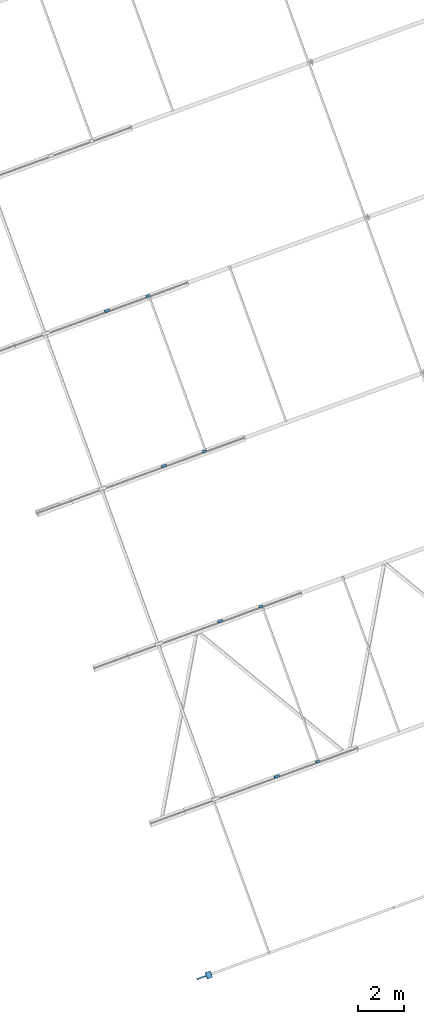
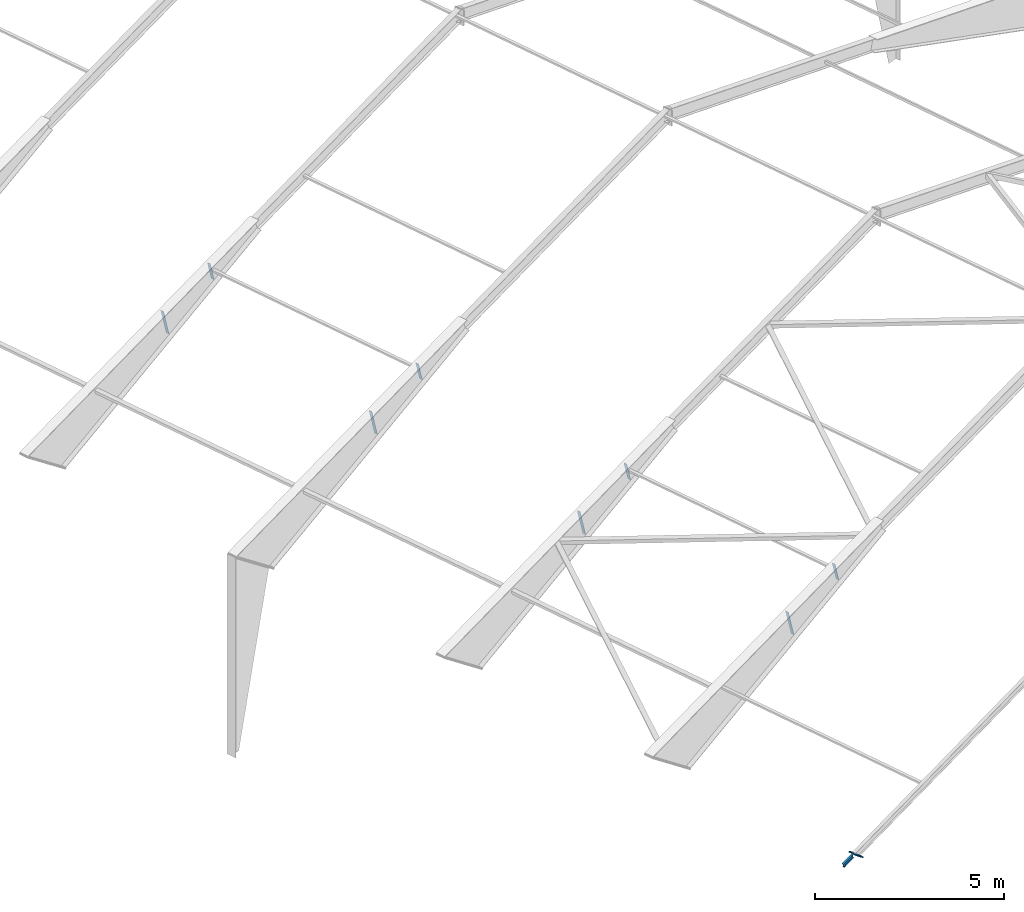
# One storey, part 5 of 17: 10 members, 1 beam, 1 opening, 11 elements without a shape of their own.
"""IFC4 building model written with IfcOpenShell, lengths in millimetres."""

from ifc_helpers import new_model, si_unit, direction, frame, origin_with_axes, place, context, subcontext, project, spatial, line, indexed_curve, outline, extrude, material, element, aggregate, save


model = new_model("IFC4")

# Units and contexts
model_context = context("Model", 3, precision=0.2, world=frame((203566.813, 116264.779, 0.0), z_axis=(0.0, 0.0, 1.0), x_axis=(1.0, 0.0, 0.0)), true_north=direction((-0.9396138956, -0.3422363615)))
body_context = subcontext(model_context, "Body", "Model", "MODEL_VIEW")
ifc_project = project(units=[si_unit("LENGTHUNIT", "METRE", prefix="MILLI"), si_unit("AREAUNIT", "SQUARE_METRE"), si_unit("VOLUMEUNIT", "CUBIC_METRE"), si_unit("MASSUNIT", "GRAM", prefix="KILO"), si_unit("TIMEUNIT", "SECOND"), si_unit("PLANEANGLEUNIT", "RADIAN"), si_unit("SOLIDANGLEUNIT", "STERADIAN"), si_unit("THERMODYNAMICTEMPERATUREUNIT", "DEGREE_CELSIUS"), si_unit("LUMINOUSINTENSITYUNIT", "LUMEN")], contexts=[model_context])

# Site, building, storey
site_placement = place(None, origin_with_axes())
site = spatial("IfcSite", under=ifc_project, at=site_placement, Name="Nobelprojektet", CompositionType="ELEMENT")
building_placement = place(site_placement, origin_with_axes())
building = spatial("IfcBuilding", under=site, at=building_placement, Name="Hall B", CompositionType="ELEMENT")
storey_placement = place(building_placement, frame((0.0, 0.0, 136000.0), z_axis=(0.0, 0.0, 1.0), x_axis=(1.0, 0.0, 0.0)))
storey = spatial("IfcBuildingStorey", under=building, at=storey_placement, Name="Plan_2", CompositionType="ELEMENT", Elevation=136000.0)

# Assembly, member
assembly_1_placement = place(storey_placement, frame((153655.23292, 121781.50658, 4361.10289), z_axis=(0.9075966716, 0.3305755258, 0.2588206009), x_axis=(-0.2431885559, -0.088576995, 0.9659262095)))
assembly_1 = element("IfcElementAssembly", 1, at=assembly_1_placement, inside=storey, Name="BEF. STOMME", PredefinedType="NOTDEFINED")
ifc_material = material(Name="S355J2", Category="STEEL")
member_1_placement = place(assembly_1_placement, origin_with_axes())
member_1 = element("IfcMember", 2, at=member_1_placement, material=ifc_material, Name="BEF. STOMME", PredefinedType="NOTDEFINED", context=body_context, shape_type="SolidModel", body=[
    extrude(outline(indexed_curve([(-7.5, -50.0), (7.5, -50.0), (7.5, 50.0), (-7.5, 50.0)], segments=[line(1, 2, 3, 4, 1)])), frame((0.0, 0.0, 0.0), z_axis=(-1.0, 0.0, 0.0), x_axis=(0.0, 0.0, 1.0)), (0.0, 0.0, -1.0), 883.23799),
])
aggregate(assembly_1, [member_1])

assembly_2_placement = place(storey_placement, frame((155396.23963, 122415.63651, 5134.76285), z_axis=(0.9075966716, 0.3305755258, 0.2588206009), x_axis=(-0.2431885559, -0.088576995, 0.9659262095)))
assembly_2 = element("IfcElementAssembly", 3, at=assembly_2_placement, inside=storey, Name="BEF. STOMME", PredefinedType="NOTDEFINED")
member_2_placement = place(assembly_2_placement, origin_with_axes())
member_2 = element("IfcMember", 4, at=member_2_placement, material=ifc_material, Name="BEF. STOMME", PredefinedType="NOTDEFINED", context=body_context, shape_type="SolidModel", body=[
    extrude(outline(indexed_curve([(-7.5, -50.0), (7.5, -50.0), (7.5, 50.0), (-7.5, 50.0)], segments=[line(1, 2, 3, 4, 1)])), frame((0.0, 0.0, 0.0), z_axis=(-1.0, 0.0, 0.0), x_axis=(0.0, 0.0, 1.0)), (0.0, 0.0, -1.0), 614.49783),
])
aggregate(assembly_2, [member_2])

assembly_3_placement = place(storey_placement, frame((151191.12555, 128546.72414, 4361.10289), z_axis=(0.9075966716, 0.3305755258, 0.2588206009), x_axis=(-0.2431885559, -0.088576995, 0.9659262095)))
assembly_3 = element("IfcElementAssembly", 5, at=assembly_3_placement, inside=storey, Name="BEF. STOMME", PredefinedType="NOTDEFINED")
member_3_placement = place(assembly_3_placement, origin_with_axes())
member_3 = element("IfcMember", 6, at=member_3_placement, material=ifc_material, Name="BEF. STOMME", PredefinedType="NOTDEFINED", context=body_context, shape_type="SolidModel", body=[
    extrude(outline(indexed_curve([(-7.5, -50.0), (7.5, -50.0), (7.5, 50.0), (-7.5, 50.0)], segments=[line(1, 2, 3, 4, 1)])), frame((0.0, 0.0, 0.0), z_axis=(-1.0, 0.0, 0.0), x_axis=(0.0, 0.0, 1.0)), (0.0, 0.0, -1.0), 883.23799),
])
aggregate(assembly_3, [member_3])

assembly_4_placement = place(storey_placement, frame((152932.13226, 129180.85407, 5134.76285), z_axis=(0.9075966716, 0.3305755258, 0.2588206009), x_axis=(-0.2431885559, -0.088576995, 0.9659262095)))
assembly_4 = element("IfcElementAssembly", 7, at=assembly_4_placement, inside=storey, Name="BEF. STOMME", PredefinedType="NOTDEFINED")
member_4_placement = place(assembly_4_placement, origin_with_axes())
member_4 = element("IfcMember", 8, at=member_4_placement, material=ifc_material, Name="BEF. STOMME", PredefinedType="NOTDEFINED", context=body_context, shape_type="SolidModel", body=[
    extrude(outline(indexed_curve([(-7.5, -50.0), (7.5, -50.0), (7.5, 50.0), (-7.5, 50.0)], segments=[line(1, 2, 3, 4, 1)])), frame((0.0, 0.0, 0.0), z_axis=(-1.0, 0.0, 0.0), x_axis=(0.0, 0.0, 1.0)), (0.0, 0.0, -1.0), 614.49783),
])
aggregate(assembly_4, [member_4])

assembly_5_placement = place(storey_placement, frame((146262.91066, 142077.16074, 4361.10289), z_axis=(0.9075966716, 0.3305755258, 0.2588206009), x_axis=(-0.2431885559, -0.088576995, 0.9659262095)))
assembly_5 = element("IfcElementAssembly", 9, at=assembly_5_placement, inside=storey, Name="BEF. STOMME", PredefinedType="NOTDEFINED")
member_5_placement = place(assembly_5_placement, origin_with_axes())
member_5 = element("IfcMember", 10, at=member_5_placement, material=ifc_material, Name="BEF. STOMME", PredefinedType="NOTDEFINED", context=body_context, shape_type="SolidModel", body=[
    extrude(outline(indexed_curve([(-7.5, -50.0), (7.5, -50.0), (7.5, 50.0), (-7.5, 50.0)], segments=[line(1, 2, 3, 4, 1)])), frame((0.0, 0.0, 0.0), z_axis=(-1.0, 0.0, 0.0), x_axis=(0.0, 0.0, 1.0)), (0.0, 0.0, -1.0), 883.23799),
])
aggregate(assembly_5, [member_5])

assembly_6_placement = place(storey_placement, frame((148003.91737, 142711.29066, 5134.76285), z_axis=(0.9075966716, 0.3305755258, 0.2588206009), x_axis=(-0.2431885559, -0.088576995, 0.9659262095)))
assembly_6 = element("IfcElementAssembly", 11, at=assembly_6_placement, inside=storey, Name="BEF. STOMME", PredefinedType="NOTDEFINED")
member_6_placement = place(assembly_6_placement, origin_with_axes())
member_6 = element("IfcMember", 12, at=member_6_placement, material=ifc_material, Name="BEF. STOMME", PredefinedType="NOTDEFINED", context=body_context, shape_type="SolidModel", body=[
    extrude(outline(indexed_curve([(-7.5, -50.0), (7.5, -50.0), (7.5, 50.0), (-7.5, 50.0)], segments=[line(1, 2, 3, 4, 1)])), frame((0.0, 0.0, 0.0), z_axis=(-1.0, 0.0, 0.0), x_axis=(0.0, 0.0, 1.0)), (0.0, 0.0, -1.0), 614.49783),
])
aggregate(assembly_6, [member_6])

assembly_7_placement = place(storey_placement, frame((150465.91877, 113047.52193, 3666.07144), z_axis=(-0.572008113, -0.2083435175, -0.7933471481), x_axis=(0.7454397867, 0.2715128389, -0.6087694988)))
assembly_7 = element("IfcElementAssembly", 13, at=assembly_7_placement, inside=storey, Name="BEF. STOMME", PredefinedType="NOTDEFINED")
member_7_placement = place(assembly_7_placement, origin_with_axes())
member_7 = element("IfcMember", 14, at=member_7_placement, material=ifc_material, Name="BEF. STOMME", PredefinedType="NOTDEFINED", context=body_context, shape_type="SolidModel", body=[
    extrude(outline(indexed_curve([(-7.5, -150.0), (7.5, -150.0), (7.5, 150.0), (-7.5, 150.0)], segments=[line(1, 2, 3, 4, 1)])), frame((0.0, 0.0, 0.0), z_axis=(-1.0, 0.0, 0.0), x_axis=(0.0, 0.0, 1.0)), (0.0, 0.0, -1.0), 290.0017),
])
aggregate(assembly_7, [member_7])

assembly_8_placement = place(storey_placement, frame((150474.49744, 113050.64655, 3677.97144), z_axis=(-0.572008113, -0.2083435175, -0.7933471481), x_axis=(0.7454397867, 0.2715128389, -0.6087694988)))
assembly_8 = element("IfcElementAssembly", 15, at=assembly_8_placement, inside=storey, Name="BEF. STOMME", PredefinedType="NOTDEFINED")
member_8_placement = place(assembly_8_placement, origin_with_axes())
member_8 = element("IfcMember", 16, at=member_8_placement, material=ifc_material, Name="BEF. STOMME", PredefinedType="NOTDEFINED", context=body_context, shape_type="SolidModel", body=[
    extrude(outline(indexed_curve([(-7.5, -150.0), (7.5, -150.0), (7.5, 150.0), (-7.5, 150.0)], segments=[line(1, 2, 3, 4, 1)])), frame((0.0, 0.0, 0.0), z_axis=(-1.0, 0.0, 0.0), x_axis=(0.0, 0.0, 1.0)), (0.0, 0.0, -1.0), 290.0017),
])
aggregate(assembly_8, [member_8])

# Assembly, beam, voiding feature
assembly_9_placement = place(storey_placement, frame((150074.75486, 112905.03607, 3507.5509), z_axis=(-0.3422371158, 0.9396136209, 1.3e-09), x_axis=(0.9075895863, 0.3305729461, 0.2588487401)))
assembly_9 = element("IfcElementAssembly", 17, at=assembly_9_placement, inside=storey, Name="BEF. STOMME", PredefinedType="NOTDEFINED")
beam_placement = place(assembly_9_placement, origin_with_axes())
beam = element("IfcBeam", 18, at=beam_placement, material=ifc_material, Name="BEF. STOMME", PredefinedType="NOTDEFINED", context=body_context, shape_type="SolidModel", body=[
    extrude(outline(indexed_curve([(-32.0, -60.0), (32.0, -60.0), (32.0, -53.7), (2.2, -53.7), (2.2, 53.7), (32.0, 53.7), (32.0, 60.0), (-32.0, 60.0), (-32.0, 53.7), (-2.2, 53.7), (-2.2, -53.7), (-32.0, -53.7)], segments=[line(1, 2, 3, 4, 5, 6, 7, 8, 9, 10, 11, 12, 1)])), frame((0.0, 0.0, 0.0), z_axis=(-1.0, 0.0, 0.0), x_axis=(0.0, 0.0, 1.0)), (0.0, 0.0, -1.0), 442.3458),
])
voiding_feature_placement = place(beam_placement, frame((410.18513, 60.0, 0.0), z_axis=(0.0, 0.0, -1.0), x_axis=(1.0, 0.0, 0.0)))
element("IfcVoidingFeature", 19, at=voiding_feature_placement, cuts=beam, Name="CUTPART", PredefinedType="HOLE", context=body_context, shape_type="SolidModel", body=[
    extrude(outline(indexed_curve([(0.0, 0.0), (32.16068, 0.0), (32.16068, 120.0)], segments=[line(1, 2, 3, 1)])), frame((0.0, 0.0, 34.5), z_axis=(0.0, 0.0, 1.0), x_axis=(1.0, 0.0, 0.0)), (0.0, 0.0, -1.0), 69.0),
])
aggregate(assembly_9, [beam])

# Assembly, member
assembly_10_placement = place(storey_placement, frame((148727.95427, 135312.28305, 4361.10289), z_axis=(0.9075966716, 0.3305755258, 0.2588206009), x_axis=(-0.2431885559, -0.088576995, 0.9659262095)))
assembly_10 = element("IfcElementAssembly", 20, at=assembly_10_placement, inside=storey, Name="BEF. STOMME", PredefinedType="NOTDEFINED")
member_9_placement = place(assembly_10_placement, origin_with_axes())
member_9 = element("IfcMember", 21, at=member_9_placement, material=ifc_material, Name="BEF. STOMME", PredefinedType="NOTDEFINED", context=body_context, shape_type="SolidModel", body=[
    extrude(outline(indexed_curve([(-7.5, -50.0), (7.5, -50.0), (7.5, 50.0), (-7.5, 50.0)], segments=[line(1, 2, 3, 4, 1)])), frame((0.0, 0.0, 0.0), z_axis=(-1.0, 0.0, 0.0), x_axis=(0.0, 0.0, 1.0)), (0.0, 0.0, -1.0), 883.23799),
])
aggregate(assembly_10, [member_9])

assembly_11_placement = place(storey_placement, frame((150468.96098, 135946.41297, 5134.76285), z_axis=(0.9075966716, 0.3305755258, 0.2588206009), x_axis=(-0.2431885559, -0.088576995, 0.9659262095)))
assembly_11 = element("IfcElementAssembly", 22, at=assembly_11_placement, inside=storey, Name="BEF. STOMME", PredefinedType="NOTDEFINED")
member_10_placement = place(assembly_11_placement, origin_with_axes())
member_10 = element("IfcMember", 23, at=member_10_placement, material=ifc_material, Name="BEF. STOMME", PredefinedType="NOTDEFINED", context=body_context, shape_type="SolidModel", body=[
    extrude(outline(indexed_curve([(-7.5, -50.0), (7.5, -50.0), (7.5, 50.0), (-7.5, 50.0)], segments=[line(1, 2, 3, 4, 1)])), frame((0.0, 0.0, 0.0), z_axis=(-1.0, 0.0, 0.0), x_axis=(0.0, 0.0, 1.0)), (0.0, 0.0, -1.0), 614.49783),
])
aggregate(assembly_11, [member_10])

save(model, "model.ifc")
